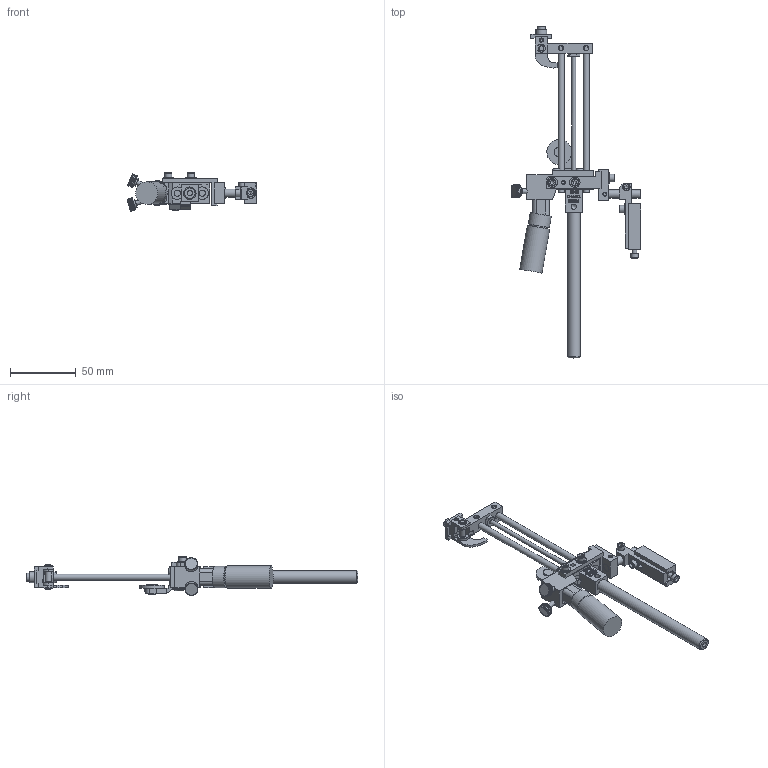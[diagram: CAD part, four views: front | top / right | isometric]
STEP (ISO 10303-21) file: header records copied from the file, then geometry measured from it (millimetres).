
FILE_DESCRIPTION((''),'2;1');
FILE_NAME('C:\Documents and Settings\Ron\My Documents\Inventor\Sprinter Drawing\Machines in Inventor\Model 22\Dot\1-fourth\Ext Str\E2\Brkt\Ext\Model 22 ES 2 1-4 dot ext w brkt.stp','2009-01-22T10:10:30',('Ron'),(''),'Autodesk Inventor 2008','Autodesk Inventor 2008','');
FILE_SCHEMA(('AUTOMOTIVE_DESIGN { 1 0 10303 214 1 1 1 1 }'));
Length unit declared in the file: inch
Products named in the file (1): Model 22 ES 2 1-4 dot ext w brkt
Bounding box: 99.17 x 253.25 x 29.56 mm (x, y, z)
Volume: 6477.3 mm3; surface area: 37712.8 mm2
Topology: 39 solids, 40 shells, 4748 faces, 13156 edges, 8733 vertices
Faces by surface type: plane 2904, bspline 1291, cylinder 484, cone 56, torus 13
Full cylindrical faces by diameter (mm): 2.845 x3, 2.946 x2, 3.175 x3, 3.505 x7, 3.556 x2, 3.658 x2, 3.876 x1, 3.962 x9, 4.064 x1, 4.166 x3, 4.648 x2, 4.699 x1, 4.75 x1, 4.763 x2, 4.775 x2, 4.788 x1, 5.41 x2, 5.74 x6, 6.096 x1, 6.325 x2, 6.35 x4, 6.477 x1, 6.655 x1, 7.925 x4, 7.938 x1, 8.128 x1, 8.334 x1, 9.462 x1, 9.525 x1, 10.922 x1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
Entity records: 166214 total; most frequent: CARTESIAN_POINT 49259, ORIENTED_EDGE 25792, DIRECTION 18484, EDGE_CURVE 12896, VECTOR 9072, LINE 9072, VERTEX_POINT 8643, EDGE_LOOP 5272
